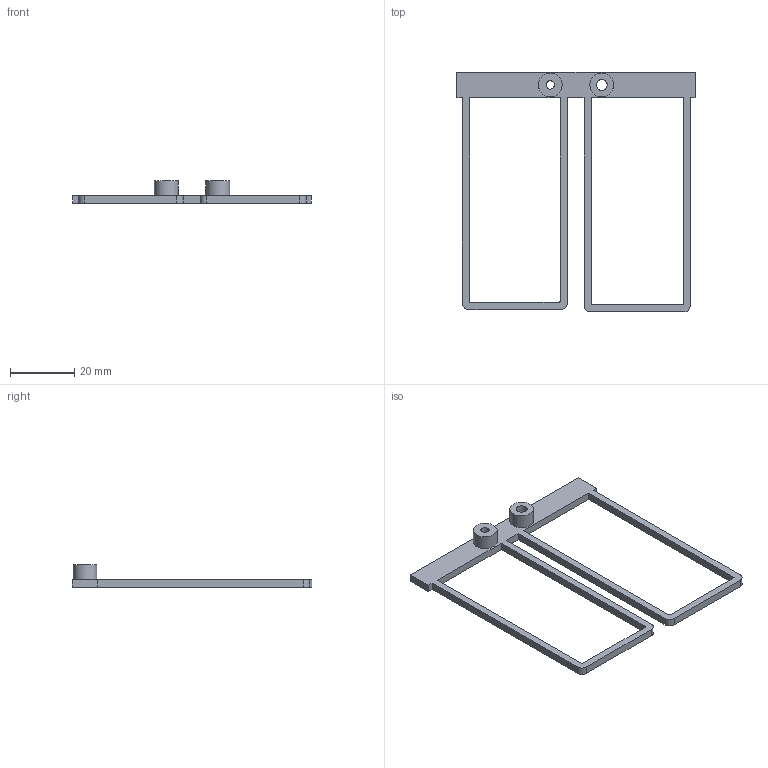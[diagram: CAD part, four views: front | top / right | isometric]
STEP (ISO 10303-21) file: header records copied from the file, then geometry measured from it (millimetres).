
FILE_DESCRIPTION(('Open CASCADE Model'),'2;1');
FILE_NAME('Open CASCADE Shape Model','2026-09-07T22:44:26',('Author'),( 'Open CASCADE'),'Open CASCADE STEP processor 7.9','build123d', 'Unknown');
FILE_SCHEMA(('AUTOMOTIVE_DESIGN { 1 0 10303 214 1 1 1 1 }'));
Length unit declared in the file: millimetre
Products named in the file (1): COMPOUND
Bounding box: 74 x 74.5 x 7 mm (x, y, z)
Volume: 3403.6 mm3; surface area: 4812.4 mm2
Topology: 1 solids, 1 shells, 36 faces, 96 edges, 64 vertices
Faces by surface type: plane 24, cylinder 12
Full cylindrical faces by diameter (mm): 2.6 x1, 3.4 x1, 7.4 x2
Entity records: 2418 total; most frequent: CARTESIAN_POINT 513, DIRECTION 342, LINE 212, VECTOR 212, ORIENTED_EDGE 192, PCURVE 192, DEFINITIONAL_REPRESENTATION 192, EDGE_CURVE 96
